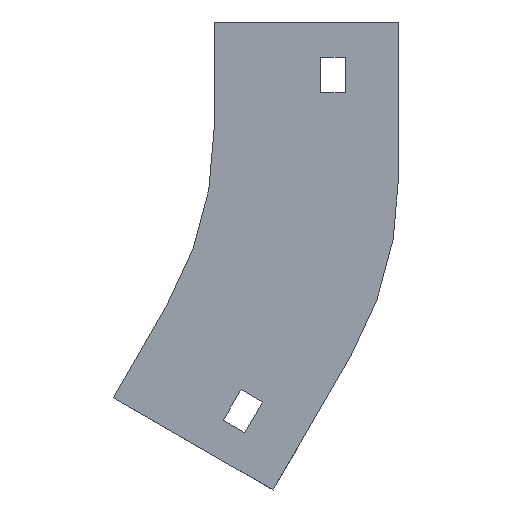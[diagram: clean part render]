
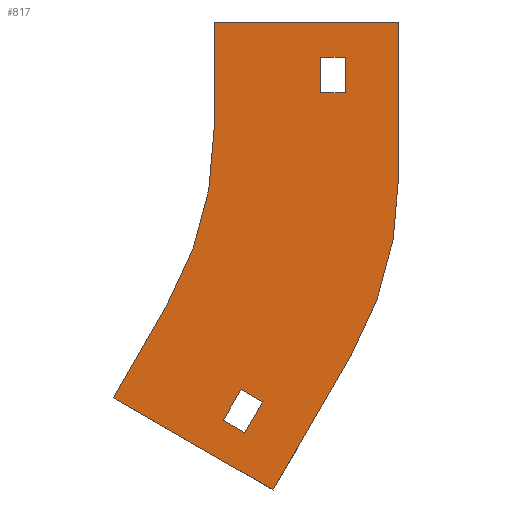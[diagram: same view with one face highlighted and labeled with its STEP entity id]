
A CAD part, left-side view. The second image highlights one B-rep face of the part: STEP entity #817.
In plain terms, the highlighted planar face has unit normal (-1, 0, 0).
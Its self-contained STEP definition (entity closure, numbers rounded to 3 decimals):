
#13 = AXIS2_PLACEMENT_3D ( 'NONE', #876, #1303, #143 ) ;
#18 = CARTESIAN_POINT ( 'NONE',  ( -202., -52., -43.933 ) ) ;
#35 = DIRECTION ( 'NONE',  ( 0., -0.5, 0.866 ) ) ;
#52 = VERTEX_POINT ( 'NONE', #1311 ) ;
#53 = AXIS2_PLACEMENT_3D ( 'NONE', #70, #177, #62 ) ;
#62 = DIRECTION ( 'NONE',  ( 0., 0., -1. ) ) ;
#70 = CARTESIAN_POINT ( 'NONE',  ( -202., 100., -30. ) ) ;
#89 = CARTESIAN_POINT ( 'NONE',  ( -202., 13.397, -80. ) ) ;
#91 = ORIENTED_EDGE ( 'NONE', *, *, #1402, .F. ) ;
#93 = ORIENTED_EDGE ( 'NONE', *, *, #1119, .F. ) ;
#98 = EDGE_CURVE ( 'NONE', #304, #1177, #660, .T. ) ;
#102 = DIRECTION ( 'NONE',  ( 0., 1., 0. ) ) ;
#115 = ORIENTED_EDGE ( 'NONE', *, *, #1262, .T. ) ;
#124 = CARTESIAN_POINT ( 'NONE',  ( -202., -2.583, -112.321 ) ) ;
#136 = ORIENTED_EDGE ( 'NONE', *, *, #1176, .F. ) ;
#141 = EDGE_CURVE ( 'NONE', #457, #304, #1248, .T. ) ;
#143 = DIRECTION ( 'NONE',  ( 0., 0., -1. ) ) ;
#171 = CARTESIAN_POINT ( 'NONE',  ( -202., -8.645, -115.821 ) ) ;
#177 = DIRECTION ( 'NONE',  ( 1., 0., 0. ) ) ;
#210 = CARTESIAN_POINT ( 'NONE',  ( -202., -2.583, -112.321 ) ) ;
#219 = DIRECTION ( 'NONE',  ( 0., -1., 0. ) ) ;
#226 = LINE ( 'NONE', #995, #337 ) ;
#231 = ORIENTED_EDGE ( 'NONE', *, *, #950, .F. ) ;
#263 = VECTOR ( 'NONE', #553, 1000. ) ;
#266 = CARTESIAN_POINT ( 'NONE',  ( -202., -52., 0. ) ) ;
#275 = CARTESIAN_POINT ( 'NONE',  ( -202., -16.636, -131.981 ) ) ;
#285 = ORIENTED_EDGE ( 'NONE', *, *, #899, .T. ) ;
#299 = CARTESIAN_POINT ( 'NONE',  ( -202., -16.636, -131.981 ) ) ;
#304 = VERTEX_POINT ( 'NONE', #1050 ) ;
#309 = CIRCLE ( 'NONE', #494, 100. ) ;
#317 = PLANE ( 'NONE',  #53 ) ;
#322 = DIRECTION ( 'NONE',  ( 0., 0.5, -0.866 ) ) ;
#337 = VECTOR ( 'NONE', #767, 1000. ) ;
#344 = LINE ( 'NONE', #124, #1166 ) ;
#350 = VECTOR ( 'NONE', #102, 1000. ) ;
#414 = VERTEX_POINT ( 'NONE', #541 ) ;
#415 = LINE ( 'NONE', #299, #531 ) ;
#426 = LINE ( 'NONE', #769, #858 ) ;
#457 = VERTEX_POINT ( 'NONE', #1194 ) ;
#494 = AXIS2_PLACEMENT_3D ( 'NONE', #1383, #1049, #1040 ) ;
#508 = EDGE_CURVE ( 'NONE', #927, #1286, #426, .T. ) ;
#515 = CARTESIAN_POINT ( 'NONE',  ( -202., -7.583, -103.66 ) ) ;
#524 = VECTOR ( 'NONE', #219, 1000. ) ;
#531 = VECTOR ( 'NONE', #322, 1000. ) ;
#541 = CARTESIAN_POINT ( 'NONE',  ( -202., -13.645, -107.16 ) ) ;
#549 = DIRECTION ( 'NONE',  ( 0., -0.866, -0.5 ) ) ;
#553 = DIRECTION ( 'NONE',  ( 0., -1., 0. ) ) ;
#556 = EDGE_CURVE ( 'NONE', #977, #1080, #344, .T. ) ;
#576 = CARTESIAN_POINT ( 'NONE',  ( -202., -37., -10. ) ) ;
#592 = ORIENTED_EDGE ( 'NONE', *, *, #1116, .F. ) ;
#645 = CARTESIAN_POINT ( 'NONE',  ( -202., -30., -20. ) ) ;
#648 = ORIENTED_EDGE ( 'NONE', *, *, #141, .T. ) ;
#656 = CARTESIAN_POINT ( 'NONE',  ( -202., -37., -10. ) ) ;
#660 = LINE ( 'NONE', #1087, #263 ) ;
#677 = EDGE_LOOP ( 'NONE', ( #592, #1366, #931, #91 ) ) ;
#709 = CARTESIAN_POINT ( 'NONE',  ( -202., -30., -10. ) ) ;
#726 = EDGE_CURVE ( 'NONE', #887, #1259, #309, .T. ) ;
#728 = FACE_BOUND ( 'NONE', #1157, .T. ) ;
#739 = ORIENTED_EDGE ( 'NONE', *, *, #792, .F. ) ;
#740 = ORIENTED_EDGE ( 'NONE', *, *, #98, .T. ) ;
#741 = DIRECTION ( 'NONE',  ( 0., 0.866, 0.5 ) ) ;
#754 = VECTOR ( 'NONE', #741, 1000. ) ;
#756 = DIRECTION ( 'NONE',  ( 0., 0.5, -0.866 ) ) ;
#762 = LINE ( 'NONE', #645, #350 ) ;
#767 = DIRECTION ( 'NONE',  ( 0., 0., -1. ) ) ;
#768 = LINE ( 'NONE', #1084, #1001 ) ;
#769 = CARTESIAN_POINT ( 'NONE',  ( -202., 0., 0. ) ) ;
#782 = DIRECTION ( 'NONE',  ( 0., 0., 1. ) ) ;
#790 = VECTOR ( 'NONE', #1329, 1000. ) ;
#792 = EDGE_CURVE ( 'NONE', #942, #1140, #959, .T. ) ;
#817 = ADVANCED_FACE ( 'NONE', ( #859, #728, #1033 ), #317, .F. ) ;
#824 = CARTESIAN_POINT ( 'NONE',  ( -202., -8.645, -115.821 ) ) ;
#858 = VECTOR ( 'NONE', #782, 1000. ) ;
#859 = FACE_OUTER_BOUND ( 'NONE', #1207, .T. ) ;
#869 = LINE ( 'NONE', #1294, #524 ) ;
#870 = ORIENTED_EDGE ( 'NONE', *, *, #726, .F. ) ;
#876 = CARTESIAN_POINT ( 'NONE',  ( -202., 100., -30. ) ) ;
#883 = ORIENTED_EDGE ( 'NONE', *, *, #1282, .F. ) ;
#887 = VERTEX_POINT ( 'NONE', #18 ) ;
#899 = EDGE_CURVE ( 'NONE', #52, #457, #762, .T. ) ;
#927 = VERTEX_POINT ( 'NONE', #1072 ) ;
#931 = ORIENTED_EDGE ( 'NONE', *, *, #1106, .F. ) ;
#935 = LINE ( 'NONE', #824, #1297 ) ;
#942 = VERTEX_POINT ( 'NONE', #1193 ) ;
#950 = EDGE_CURVE ( 'NONE', #1374, #942, #768, .T. ) ;
#959 = LINE ( 'NONE', #89, #1253 ) ;
#964 = LINE ( 'NONE', #1287, #754 ) ;
#977 = VERTEX_POINT ( 'NONE', #515 ) ;
#995 = CARTESIAN_POINT ( 'NONE',  ( -202., -52., -43.933 ) ) ;
#1001 = VECTOR ( 'NONE', #1320, 1000. ) ;
#1033 = FACE_BOUND ( 'NONE', #677, .T. ) ;
#1040 = DIRECTION ( 'NONE',  ( 0., 0., 1. ) ) ;
#1049 = DIRECTION ( 'NONE',  ( 1., 0., 0. ) ) ;
#1050 = CARTESIAN_POINT ( 'NONE',  ( -202., -30., -10. ) ) ;
#1058 = CIRCLE ( 'NONE', #13, 100. ) ;
#1068 = ORIENTED_EDGE ( 'NONE', *, *, #508, .F. ) ;
#1072 = CARTESIAN_POINT ( 'NONE',  ( -202., 0., -30. ) ) ;
#1080 = VERTEX_POINT ( 'NONE', #210 ) ;
#1084 = CARTESIAN_POINT ( 'NONE',  ( -202., 28.397, -105.981 ) ) ;
#1087 = CARTESIAN_POINT ( 'NONE',  ( -202., -30., -10. ) ) ;
#1106 = EDGE_CURVE ( 'NONE', #414, #977, #964, .T. ) ;
#1116 = EDGE_CURVE ( 'NONE', #1080, #1354, #1373, .T. ) ;
#1119 = EDGE_CURVE ( 'NONE', #1259, #1374, #415, .T. ) ;
#1138 = DIRECTION ( 'NONE',  ( 0., 0., 1. ) ) ;
#1140 = VERTEX_POINT ( 'NONE', #1179 ) ;
#1157 = EDGE_LOOP ( 'NONE', ( #648, #740, #115, #285 ) ) ;
#1165 = DIRECTION ( 'NONE',  ( 0., -0.5, 0.866 ) ) ;
#1166 = VECTOR ( 'NONE', #756, 1000. ) ;
#1176 = EDGE_CURVE ( 'NONE', #1286, #1343, #869, .T. ) ;
#1177 = VERTEX_POINT ( 'NONE', #656 ) ;
#1179 = CARTESIAN_POINT ( 'NONE',  ( -202., 13.397, -80. ) ) ;
#1193 = CARTESIAN_POINT ( 'NONE',  ( -202., 28.397, -105.981 ) ) ;
#1194 = CARTESIAN_POINT ( 'NONE',  ( -202., -30., -20. ) ) ;
#1197 = CARTESIAN_POINT ( 'NONE',  ( -202., 0., 0. ) ) ;
#1203 = CARTESIAN_POINT ( 'NONE',  ( -202., -38.603, -93.933 ) ) ;
#1207 = EDGE_LOOP ( 'NONE', ( #136, #1068, #1319, #739, #231, #93, #870, #883 ) ) ;
#1221 = LINE ( 'NONE', #576, #790 ) ;
#1248 = LINE ( 'NONE', #709, #1348 ) ;
#1253 = VECTOR ( 'NONE', #1165, 1000. ) ;
#1259 = VERTEX_POINT ( 'NONE', #1203 ) ;
#1260 = EDGE_CURVE ( 'NONE', #1140, #927, #1058, .T. ) ;
#1262 = EDGE_CURVE ( 'NONE', #1177, #52, #1221, .T. ) ;
#1282 = EDGE_CURVE ( 'NONE', #1343, #887, #226, .T. ) ;
#1286 = VERTEX_POINT ( 'NONE', #1197 ) ;
#1287 = CARTESIAN_POINT ( 'NONE',  ( -202., -7.583, -103.66 ) ) ;
#1292 = VECTOR ( 'NONE', #549, 1000. ) ;
#1294 = CARTESIAN_POINT ( 'NONE',  ( -202., -52., 0. ) ) ;
#1297 = VECTOR ( 'NONE', #35, 1000. ) ;
#1303 = DIRECTION ( 'NONE',  ( -1., 0., 0. ) ) ;
#1311 = CARTESIAN_POINT ( 'NONE',  ( -202., -37., -20. ) ) ;
#1319 = ORIENTED_EDGE ( 'NONE', *, *, #1260, .F. ) ;
#1320 = DIRECTION ( 'NONE',  ( 0., 0.866, 0.5 ) ) ;
#1329 = DIRECTION ( 'NONE',  ( 0., 0., -1. ) ) ;
#1343 = VERTEX_POINT ( 'NONE', #266 ) ;
#1348 = VECTOR ( 'NONE', #1138, 1000. ) ;
#1354 = VERTEX_POINT ( 'NONE', #171 ) ;
#1366 = ORIENTED_EDGE ( 'NONE', *, *, #556, .F. ) ;
#1373 = LINE ( 'NONE', #1388, #1292 ) ;
#1374 = VERTEX_POINT ( 'NONE', #275 ) ;
#1383 = CARTESIAN_POINT ( 'NONE',  ( -202., 48., -43.933 ) ) ;
#1388 = CARTESIAN_POINT ( 'NONE',  ( -202., -2.583, -112.321 ) ) ;
#1402 = EDGE_CURVE ( 'NONE', #1354, #414, #935, .T. ) ;
